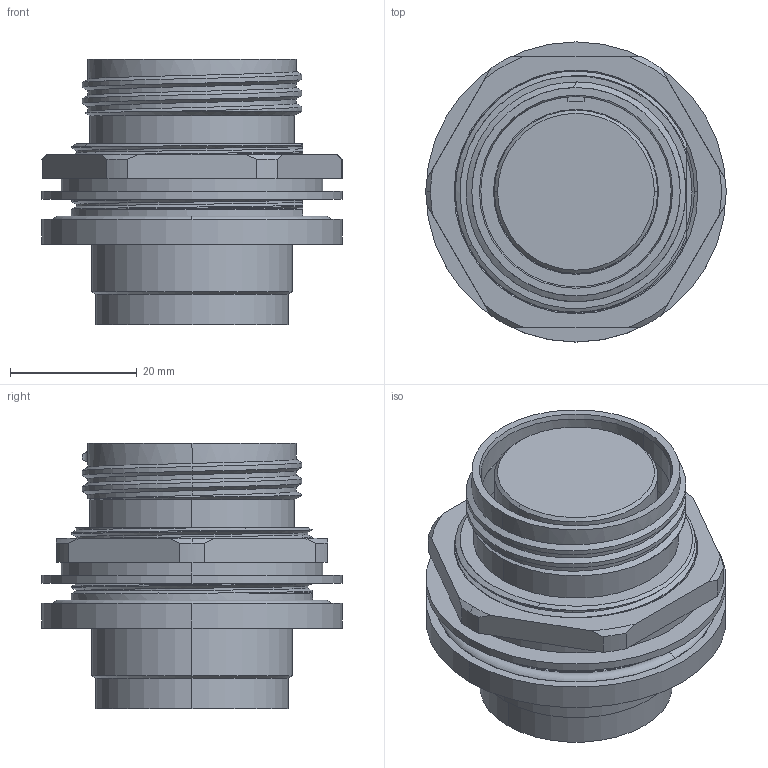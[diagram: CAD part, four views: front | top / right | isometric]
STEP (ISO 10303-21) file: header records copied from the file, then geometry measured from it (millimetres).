
FILE_DESCRIPTION (( 'STEP AP214' ), '1' );
FILE_NAME ('QLINK-RJTX-21XX-S00.STEP', '2025-09-30T21:45:41', ( '' ), ( '' ), 'SwSTEP 2.0', 'SolidWorks 2024', '' );
FILE_SCHEMA (( 'AUTOMOTIVE_DESIGN' ));
Length unit declared in the file: inch
Products named in the file (1): QLINK-RJTX-21XX-S00
Bounding box: 47.37 x 47.37 x 41.91 mm (x, y, z)
Volume: 37533.5 mm3; surface area: 17696.7 mm2
Topology: 3 solids, 3 shells, 179 faces, 470 edges, 305 vertices
Faces by surface type: cylinder 74, plane 35, bspline 30, cone 26, torus 14
Entity records: 14550 total; most frequent: CARTESIAN_POINT 10467, ORIENTED_EDGE 940, DIRECTION 758, EDGE_CURVE 470, AXIS2_PLACEMENT_3D 312, VERTEX_POINT 305, EDGE_LOOP 197, FACE_OUTER_BOUND 179
